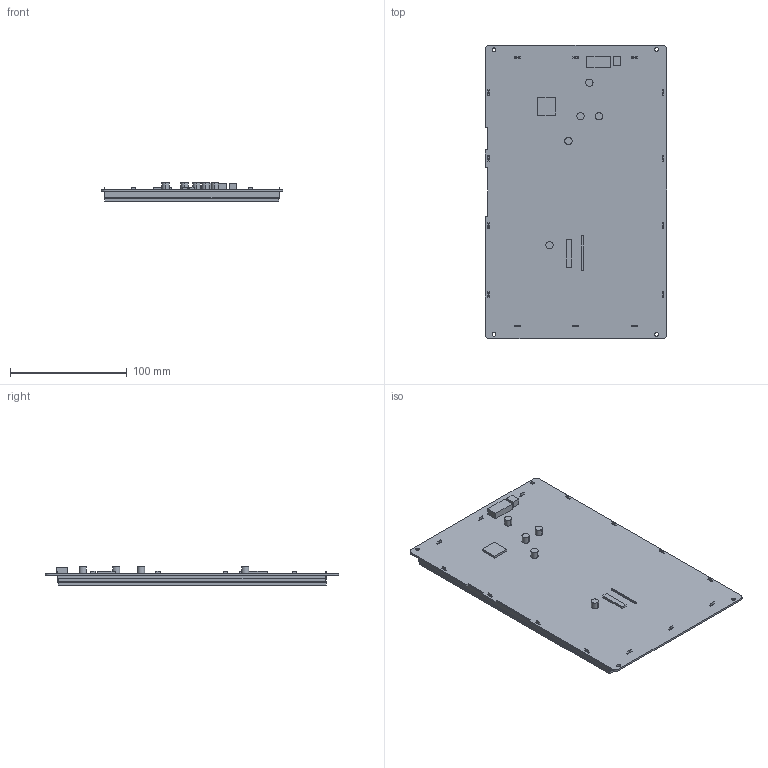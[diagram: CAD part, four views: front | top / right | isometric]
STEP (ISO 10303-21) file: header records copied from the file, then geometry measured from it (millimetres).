
FILE_DESCRIPTION((''),'2;1');
FILE_NAME('3D-DMG12800K101-03WTC','2022-02-17T',('Administrator'),(''),'PRO/ENGINEER BY PARAMETRIC TECHNOLOGY CORPORATION, 2011310','PRO/ENGINEER BY PARAMETRIC TECHNOLOGY CORPORATION, 2011310','');
FILE_SCHEMA(('CONFIG_CONTROL_DESIGN','SHAPE_APPEARANCE_LAYERS_GROUPS'));
Length unit declared in the file: millimetre
Products named in the file (1): 3D-DMG12800K101-03WTC
Bounding box: 155.32 x 251.55 x 15.7 mm (x, y, z)
Volume: 249162.7 mm3; surface area: 223138.3 mm2
Topology: 1 solids, 2 shells, 284 faces, 862 edges, 556 vertices
Faces by surface type: plane 260, cylinder 24
Entity records: 11459 total; most frequent: ORIENTED_EDGE 1724, CARTESIAN_POINT 1702, DIRECTION 1478, EDGE_CURVE 862, VECTOR 814, LINE 814, VERTEX_POINT 556, AXIS2_PLACEMENT_3D 332
